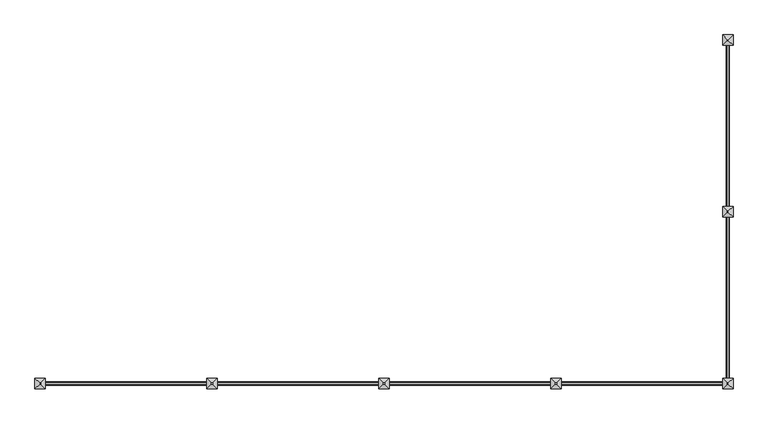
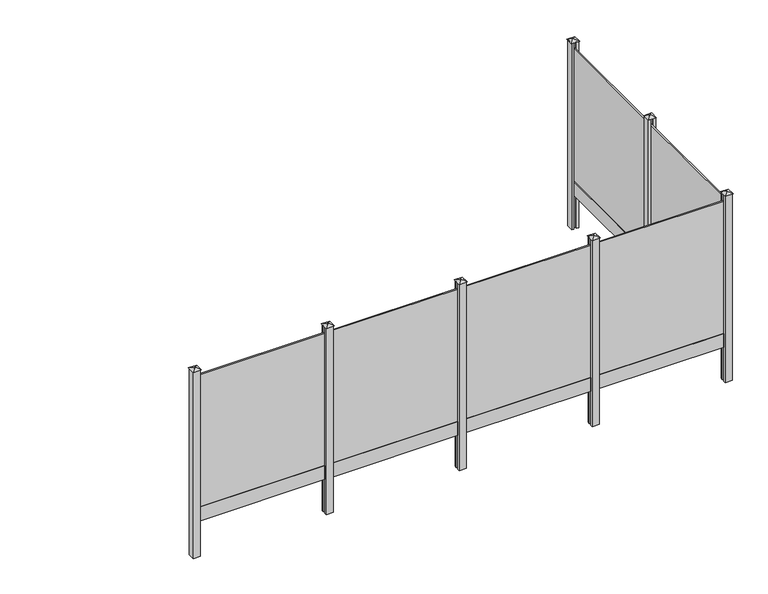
"""IFC4 building model written with IfcOpenShell, lengths in millimetres: railing geometry, Mehat - Railing - Plaque de Soubassement - Pour clôture composite - 180.5x20x3.5/1.7 cm."""

from ifc_helpers import new_model, si_unit, frame, origin, origin_with_axes, place, context, project, spatial, polyline, outline, extrude, faceted_brep, source, transform, mapped, element, save


def railing_e2239c7c(model_context):
    return source(origin(), model_context, "Body", "SolidModel", [
        extrude(outline(polyline([(-40303.7483484, 8477.5056064), (-40320.7483484, 8477.5056064), (-40320.7483484, 10282.5056064), (-40303.7483484, 10282.5056064), (-40303.7483484, 8477.5056064)])), frame((0.0, 0.0, 200.0), z_axis=(0.0, 0.0, 1.0), x_axis=(1.0, 0.0, 0.0)), (0.0, 0.0, 1.0), 1950.0),
        extrude(outline(polyline([(-40329.7483484, 10282.5056064), (-40312.7483484, 10282.5056064), (-40294.7483484, 10257.5056064), (-40294.7483484, 8502.5056064), (-40312.7483484, 8477.5056064), (-40329.7483484, 8477.5056064), (-40329.7483484, 10282.5056064)])), origin_with_axes(), (0.0, 0.0, 1.0), 200.0),
        extrude(outline(polyline([(-40262.2483484, 8402.5056064), (-40294.7483484, 8402.5056064), (-40294.7483484, 8427.5056064), (-40329.7483484, 8427.5056064), (-40329.7483484, 8402.5056064), (-40362.2483484, 8402.5056064), (-40362.2483484, 8502.5056064), (-40329.7483484, 8502.5056064), (-40329.7483484, 8477.5056064), (-40294.7483484, 8477.5056064), (-40294.7483484, 8502.5056064), (-40262.2483484, 8502.5056064), (-40262.2483484, 8402.5056064)])), frame((0.0, 0.0, -500.0), z_axis=(0.0, 0.0, 1.0), x_axis=(1.0, 0.0, 0.0)), (0.0, 0.0, 1.0), 2750.0),
        faceted_brep([(-40318.6528945, 8458.8556064, 2275.4), (-40318.6528945, 8446.1556064, 2275.4), (-40305.9528945, 8446.1556064, 2275.4), (-40305.9528945, 8458.8556064, 2275.4), (-40368.5983484, 8508.8556064, 2250.0), (-40255.8983484, 8508.8556064, 2250.0), (-40255.8983484, 8396.1556064, 2250.0), (-40368.5983484, 8396.1556064, 2250.0)], [[[0, 1, 2, 3]], [[4, 5, 6, 7]], [[4, 0, 3, 5]], [[5, 3, 2, 6]], [[6, 2, 1, 7]], [[7, 1, 0, 4]]]),
        extrude(outline(polyline([(-40303.7483484, 6622.5056064), (-40320.7483484, 6622.5056064), (-40320.7483484, 8427.5056064), (-40303.7483484, 8427.5056064), (-40303.7483484, 6622.5056064)])), frame((0.0, 0.0, 200.0), z_axis=(0.0, 0.0, 1.0), x_axis=(1.0, 0.0, 0.0)), (0.0, 0.0, 1.0), 1950.0),
        extrude(outline(polyline([(-40329.7483484, 8427.5056064), (-40312.7483484, 8427.5056064), (-40294.7483484, 8402.5056064), (-40294.7483484, 6647.5056064), (-40312.7483484, 6622.5056064), (-40329.7483484, 6622.5056064), (-40329.7483484, 8427.5056064)])), origin_with_axes(), (0.0, 0.0, 1.0), 200.0),
        extrude(outline(polyline([(-42142.2483484, 6589.0056064), (-42142.2483484, 6606.0056064), (-40337.2483484, 6606.0056064), (-40337.2483484, 6589.0056064), (-42142.2483484, 6589.0056064)])), frame((0.0, 0.0, 200.0), z_axis=(0.0, 0.0, 1.0), x_axis=(1.0, 0.0, 0.0)), (0.0, 0.0, 1.0), 1950.0),
        extrude(outline(polyline([(-40337.2483484, 6615.0056064), (-40337.2483484, 6598.0056064), (-40362.2483484, 6580.0056064), (-42117.2483484, 6580.0056064), (-42142.2483484, 6598.0056064), (-42142.2483484, 6615.0056064), (-40337.2483484, 6615.0056064)])), origin_with_axes(), (0.0, 0.0, 1.0), 200.0),
        extrude(outline(polyline([(-42217.2483484, 6547.5056064), (-42217.2483484, 6580.0056064), (-42192.2483484, 6580.0056064), (-42192.2483484, 6615.0056064), (-42217.2483484, 6615.0056064), (-42217.2483484, 6647.5056064), (-42117.2483484, 6647.5056064), (-42117.2483484, 6615.0056064), (-42142.2483484, 6615.0056064), (-42142.2483484, 6580.0056064), (-42117.2483484, 6580.0056064), (-42117.2483484, 6547.5056064), (-42217.2483484, 6547.5056064)])), frame((0.0, 0.0, -500.0), z_axis=(0.0, 0.0, 1.0), x_axis=(1.0, 0.0, 0.0)), (0.0, 0.0, 1.0), 2750.0),
        faceted_brep([(-42160.8983484, 6603.9101525, 2275.4), (-42173.5983484, 6603.9101525, 2275.4), (-42173.5983484, 6591.2101525, 2275.4), (-42160.8983484, 6591.2101525, 2275.4), (-42110.8983484, 6653.8556064, 2250.0), (-42110.8983484, 6541.1556064, 2250.0), (-42223.5983484, 6541.1556064, 2250.0), (-42223.5983484, 6653.8556064, 2250.0)], [[[0, 1, 2, 3]], [[4, 5, 6, 7]], [[4, 0, 3, 5]], [[5, 3, 2, 6]], [[6, 2, 1, 7]], [[7, 1, 0, 4]]]),
        extrude(outline(polyline([(-43997.2483484, 6589.0056064), (-43997.2483484, 6606.0056064), (-42192.2483484, 6606.0056064), (-42192.2483484, 6589.0056064), (-43997.2483484, 6589.0056064)])), frame((0.0, 0.0, 200.0), z_axis=(0.0, 0.0, 1.0), x_axis=(1.0, 0.0, 0.0)), (0.0, 0.0, 1.0), 1950.0),
        extrude(outline(polyline([(-42192.2483484, 6615.0056064), (-42192.2483484, 6598.0056064), (-42217.2483484, 6580.0056064), (-43972.2483484, 6580.0056064), (-43997.2483484, 6598.0056064), (-43997.2483484, 6615.0056064), (-42192.2483484, 6615.0056064)])), origin_with_axes(), (0.0, 0.0, 1.0), 200.0),
        extrude(outline(polyline([(-44072.2483484, 6547.5056064), (-44072.2483484, 6580.0056064), (-44047.2483484, 6580.0056064), (-44047.2483484, 6615.0056064), (-44072.2483484, 6615.0056064), (-44072.2483484, 6647.5056064), (-43972.2483484, 6647.5056064), (-43972.2483484, 6615.0056064), (-43997.2483484, 6615.0056064), (-43997.2483484, 6580.0056064), (-43972.2483484, 6580.0056064), (-43972.2483484, 6547.5056064), (-44072.2483484, 6547.5056064)])), frame((0.0, 0.0, -500.0), z_axis=(0.0, 0.0, 1.0), x_axis=(1.0, 0.0, 0.0)), (0.0, 0.0, 1.0), 2750.0),
        faceted_brep([(-44015.8983484, 6603.9101525, 2275.4), (-44028.5983484, 6603.9101525, 2275.4), (-44028.5983484, 6591.2101525, 2275.4), (-44015.8983484, 6591.2101525, 2275.4), (-43965.8983484, 6653.8556064, 2250.0), (-43965.8983484, 6541.1556064, 2250.0), (-44078.5983484, 6541.1556064, 2250.0), (-44078.5983484, 6653.8556064, 2250.0)], [[[0, 1, 2, 3]], [[4, 5, 6, 7]], [[4, 0, 3, 5]], [[5, 3, 2, 6]], [[6, 2, 1, 7]], [[7, 1, 0, 4]]]),
        extrude(outline(polyline([(-45852.2483484, 6589.0056064), (-45852.2483484, 6606.0056064), (-44047.2483484, 6606.0056064), (-44047.2483484, 6589.0056064), (-45852.2483484, 6589.0056064)])), frame((0.0, 0.0, 200.0), z_axis=(0.0, 0.0, 1.0), x_axis=(1.0, 0.0, 0.0)), (0.0, 0.0, 1.0), 1950.0),
        extrude(outline(polyline([(-44047.2483484, 6615.0056064), (-44047.2483484, 6598.0056064), (-44072.2483484, 6580.0056064), (-45827.2483484, 6580.0056064), (-45852.2483484, 6598.0056064), (-45852.2483484, 6615.0056064), (-44047.2483484, 6615.0056064)])), origin_with_axes(), (0.0, 0.0, 1.0), 200.0),
        extrude(outline(polyline([(-45927.2483484, 6547.5056064), (-45927.2483484, 6580.0056064), (-45902.2483484, 6580.0056064), (-45902.2483484, 6615.0056064), (-45927.2483484, 6615.0056064), (-45927.2483484, 6647.5056064), (-45827.2483484, 6647.5056064), (-45827.2483484, 6615.0056064), (-45852.2483484, 6615.0056064), (-45852.2483484, 6580.0056064), (-45827.2483484, 6580.0056064), (-45827.2483484, 6547.5056064), (-45927.2483484, 6547.5056064)])), frame((0.0, 0.0, -500.0), z_axis=(0.0, 0.0, 1.0), x_axis=(1.0, 0.0, 0.0)), (0.0, 0.0, 1.0), 2750.0),
        faceted_brep([(-45870.8983484, 6603.9101525, 2275.4), (-45883.5983484, 6603.9101525, 2275.4), (-45883.5983484, 6591.2101525, 2275.4), (-45870.8983484, 6591.2101525, 2275.4), (-45820.8983484, 6653.8556064, 2250.0), (-45820.8983484, 6541.1556064, 2250.0), (-45933.5983484, 6541.1556064, 2250.0), (-45933.5983484, 6653.8556064, 2250.0)], [[[0, 1, 2, 3]], [[4, 5, 6, 7]], [[4, 0, 3, 5]], [[5, 3, 2, 6]], [[6, 2, 1, 7]], [[7, 1, 0, 4]]]),
        extrude(outline(polyline([(-47707.2483484, 6589.0056064), (-47707.2483484, 6606.0056064), (-45902.2483484, 6606.0056064), (-45902.2483484, 6589.0056064), (-47707.2483484, 6589.0056064)])), frame((0.0, 0.0, 200.0), z_axis=(0.0, 0.0, 1.0), x_axis=(1.0, 0.0, 0.0)), (0.0, 0.0, 1.0), 1950.0),
        extrude(outline(polyline([(-45902.2483484, 6615.0056064), (-45902.2483484, 6598.0056064), (-45927.2483484, 6580.0056064), (-47682.2483484, 6580.0056064), (-47707.2483484, 6598.0056064), (-47707.2483484, 6615.0056064), (-45902.2483484, 6615.0056064)])), origin_with_axes(), (0.0, 0.0, 1.0), 200.0),
        extrude(outline(polyline([(-40362.2483484, 6547.5056064), (-40362.2483484, 6580.0056064), (-40337.2483484, 6580.0056064), (-40337.2483484, 6615.0056064), (-40362.2483484, 6615.0056064), (-40362.2483484, 6647.5056064), (-40329.7483484, 6647.5056064), (-40329.7483484, 6622.5056064), (-40294.7483484, 6622.5056064), (-40294.7483484, 6647.5056064), (-40262.2483484, 6647.5056064), (-40262.2483484, 6547.5056064), (-40362.2483484, 6547.5056064)])), frame((0.0, 0.0, -500.0), z_axis=(0.0, 0.0, 1.0), x_axis=(1.0, 0.0, 0.0)), (0.0, 0.0, 1.0), 2750.0),
        faceted_brep([(-40305.8983484, 6603.9101525, 2275.4), (-40318.5983484, 6603.9101525, 2275.4), (-40318.5983484, 6591.2101525, 2275.4), (-40305.8983484, 6591.2101525, 2275.4), (-40255.8983484, 6653.8556064, 2250.0), (-40255.8983484, 6541.1556064, 2250.0), (-40368.5983484, 6541.1556064, 2250.0), (-40368.5983484, 6653.8556064, 2250.0)], [[[0, 1, 2, 3]], [[4, 5, 6, 7]], [[4, 0, 3, 5]], [[5, 3, 2, 6]], [[6, 2, 1, 7]], [[7, 1, 0, 4]]]),
        extrude(outline(polyline([(-40262.2483484, 10257.5056064), (-40294.7483484, 10257.5056064), (-40294.7483484, 10282.5056064), (-40329.7483484, 10282.5056064), (-40329.7483484, 10257.5056064), (-40362.2483484, 10257.5056064), (-40362.2483484, 10357.5056064), (-40262.2483484, 10357.5056064), (-40262.2483484, 10257.5056064)])), frame((0.0, 0.0, -500.0), z_axis=(0.0, 0.0, 1.0), x_axis=(1.0, 0.0, 0.0)), (0.0, 0.0, 1.0), 2750.0),
        faceted_brep([(-40318.6528945, 10313.8556064, 2275.4), (-40318.6528945, 10301.1556064, 2275.4), (-40305.9528945, 10301.1556064, 2275.4), (-40305.9528945, 10313.8556064, 2275.4), (-40368.5983484, 10363.8556064, 2250.0), (-40255.8983484, 10363.8556064, 2250.0), (-40255.8983484, 10251.1556064, 2250.0), (-40368.5983484, 10251.1556064, 2250.0)], [[[0, 1, 2, 3]], [[4, 5, 6, 7]], [[4, 0, 3, 5]], [[5, 3, 2, 6]], [[6, 2, 1, 7]], [[7, 1, 0, 4]]]),
        extrude(outline(polyline([(-47782.2483484, 6547.5056064), (-47782.2483484, 6647.5056064), (-47682.2483484, 6647.5056064), (-47682.2483484, 6615.0056064), (-47707.2483484, 6615.0056064), (-47707.2483484, 6580.0056064), (-47682.2483484, 6580.0056064), (-47682.2483484, 6547.5056064), (-47782.2483484, 6547.5056064)])), frame((0.0, 0.0, -500.0), z_axis=(0.0, 0.0, 1.0), x_axis=(1.0, 0.0, 0.0)), (0.0, 0.0, 1.0), 2750.0),
        faceted_brep([(-47725.8983484, 6603.9101525, 2275.4), (-47738.5983484, 6603.9101525, 2275.4), (-47738.5983484, 6591.2101525, 2275.4), (-47725.8983484, 6591.2101525, 2275.4), (-47675.8983484, 6653.8556064, 2250.0), (-47675.8983484, 6541.1556064, 2250.0), (-47788.5983484, 6541.1556064, 2250.0), (-47788.5983484, 6653.8556064, 2250.0)], [[[0, 1, 2, 3]], [[4, 5, 6, 7]], [[4, 0, 3, 5]], [[5, 3, 2, 6]], [[6, 2, 1, 7]], [[7, 1, 0, 4]]]),
    ])


if __name__ == "__main__":
    model = new_model("IFC4")
    model_context = context("Model", 3, world=origin())
    ifc_project = project(units=[si_unit("LENGTHUNIT", "METRE", prefix="MILLI")], contexts=[model_context])
    site = spatial("IfcSite", under=ifc_project)
    building = spatial("IfcBuilding", under=site)
    placement = place(None, origin())
    railing_shape = railing_e2239c7c(model_context)
    element("IfcRailing", 1, ObjectType="Mehat - Railing - Plaque de Soubassement - Pour clôture composite - 180.5x20x3.5/1.7 cm", at=placement, inside=building, context=model_context, shape_type="MappedRepresentation", body=[
        mapped(railing_shape, transform((0.0, 0.0, 0.0), x_axis=(1.0, 0.0, 0.0), y_axis=(0.0, 1.0, 0.0), z_axis=(0.0, 0.0, 1.0))),
    ])
    save(model, "model.ifc")
